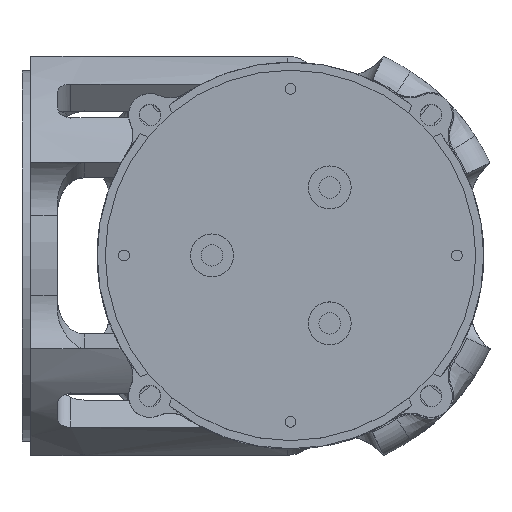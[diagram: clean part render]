
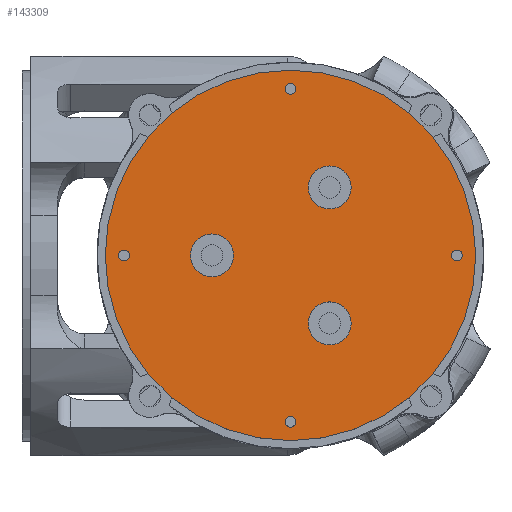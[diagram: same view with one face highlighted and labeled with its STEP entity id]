
A CAD part, top view. The second image highlights one B-rep face of the part: STEP entity #143309.
In plain terms, the highlighted planar face has unit normal (0, 0, 1).
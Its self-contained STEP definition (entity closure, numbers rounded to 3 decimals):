
#528=FACE_BOUND('',#20744,.T.);
#529=FACE_BOUND('',#20745,.T.);
#530=FACE_BOUND('',#20746,.T.);
#531=FACE_BOUND('',#20747,.T.);
#532=FACE_BOUND('',#20748,.T.);
#533=FACE_BOUND('',#20749,.T.);
#534=FACE_BOUND('',#20750,.T.);
#6853=PLANE('',#151240);
#13675=FACE_OUTER_BOUND('',#20743,.T.);
#20743=EDGE_LOOP('',(#135250));
#20744=EDGE_LOOP('',(#135251));
#20745=EDGE_LOOP('',(#135252));
#20746=EDGE_LOOP('',(#135253));
#20747=EDGE_LOOP('',(#135254));
#20748=EDGE_LOOP('',(#135255));
#20749=EDGE_LOOP('',(#135256));
#20750=EDGE_LOOP('',(#135257));
#60330=CIRCLE('',#151217,4.);
#60332=CIRCLE('',#151220,4.);
#60334=CIRCLE('',#151223,4.);
#60336=CIRCLE('',#151226,1.);
#60338=CIRCLE('',#151229,1.);
#60340=CIRCLE('',#151232,1.);
#60342=CIRCLE('',#151235,1.);
#60344=CIRCLE('',#151238,34.5);
#73917=VERTEX_POINT('',#229565);
#73919=VERTEX_POINT('',#229571);
#73921=VERTEX_POINT('',#229577);
#73923=VERTEX_POINT('',#229583);
#73925=VERTEX_POINT('',#229589);
#73927=VERTEX_POINT('',#229595);
#73929=VERTEX_POINT('',#229601);
#73931=VERTEX_POINT('',#229607);
#94389=EDGE_CURVE('',#73917,#73917,#60330,.T.);
#94392=EDGE_CURVE('',#73919,#73919,#60332,.T.);
#94395=EDGE_CURVE('',#73921,#73921,#60334,.T.);
#94398=EDGE_CURVE('',#73923,#73923,#60336,.T.);
#94401=EDGE_CURVE('',#73925,#73925,#60338,.T.);
#94404=EDGE_CURVE('',#73927,#73927,#60340,.T.);
#94407=EDGE_CURVE('',#73929,#73929,#60342,.T.);
#94410=EDGE_CURVE('',#73931,#73931,#60344,.T.);
#135250=ORIENTED_EDGE('',*,*,#94410,.T.);
#135251=ORIENTED_EDGE('',*,*,#94407,.T.);
#135252=ORIENTED_EDGE('',*,*,#94404,.T.);
#135253=ORIENTED_EDGE('',*,*,#94401,.T.);
#135254=ORIENTED_EDGE('',*,*,#94398,.T.);
#135255=ORIENTED_EDGE('',*,*,#94395,.T.);
#135256=ORIENTED_EDGE('',*,*,#94392,.T.);
#135257=ORIENTED_EDGE('',*,*,#94389,.T.);
#143309=ADVANCED_FACE('',(#13675,#528,#529,#530,#531,#532,#533,#534),#6853,
 .T.);
#151217=AXIS2_PLACEMENT_3D('',#229566,#186068,#186069);
#151220=AXIS2_PLACEMENT_3D('',#229572,#186075,#186076);
#151223=AXIS2_PLACEMENT_3D('',#229578,#186082,#186083);
#151226=AXIS2_PLACEMENT_3D('',#229584,#186089,#186090);
#151229=AXIS2_PLACEMENT_3D('',#229590,#186096,#186097);
#151232=AXIS2_PLACEMENT_3D('',#229596,#186103,#186104);
#151235=AXIS2_PLACEMENT_3D('',#229602,#186110,#186111);
#151238=AXIS2_PLACEMENT_3D('',#229608,#186117,#186118);
#151240=AXIS2_PLACEMENT_3D('',#229612,#186122,#186123);
#186068=DIRECTION('center_axis',(0.,0.,-1.));
#186069=DIRECTION('ref_axis',(1.,0.,0.));
#186075=DIRECTION('center_axis',(0.,0.,-1.));
#186076=DIRECTION('ref_axis',(1.,0.,0.));
#186082=DIRECTION('center_axis',(0.,0.,-1.));
#186083=DIRECTION('ref_axis',(1.,0.,0.));
#186089=DIRECTION('center_axis',(0.,0.,-1.));
#186090=DIRECTION('ref_axis',(1.,0.,0.));
#186096=DIRECTION('center_axis',(0.,0.,-1.));
#186097=DIRECTION('ref_axis',(1.,0.,0.));
#186103=DIRECTION('center_axis',(0.,0.,-1.));
#186104=DIRECTION('ref_axis',(1.,0.,0.));
#186110=DIRECTION('center_axis',(0.,0.,-1.));
#186111=DIRECTION('ref_axis',(1.,0.,0.));
#186117=DIRECTION('center_axis',(0.,0.,1.));
#186118=DIRECTION('ref_axis',(1.,0.,0.));
#186122=DIRECTION('center_axis',(0.,0.,1.));
#186123=DIRECTION('ref_axis',(1.,0.,0.));
#229565=CARTESIAN_POINT('',(18.883,37.5,52.1));
#229566=CARTESIAN_POINT('Origin',(22.883,37.5,52.1));
#229571=CARTESIAN_POINT('',(40.809,50.159,52.1));
#229572=CARTESIAN_POINT('Origin',(44.809,50.159,52.1));
#229577=CARTESIAN_POINT('',(40.809,24.841,52.1));
#229578=CARTESIAN_POINT('Origin',(44.809,24.841,52.1));
#229583=CARTESIAN_POINT('',(36.5,68.5,52.1));
#229584=CARTESIAN_POINT('Origin',(37.5,68.5,52.1));
#229589=CARTESIAN_POINT('',(67.5,37.5,52.1));
#229590=CARTESIAN_POINT('Origin',(68.5,37.5,52.1));
#229595=CARTESIAN_POINT('',(36.5,6.5,52.1));
#229596=CARTESIAN_POINT('Origin',(37.5,6.5,52.1));
#229601=CARTESIAN_POINT('',(5.5,37.5,52.1));
#229602=CARTESIAN_POINT('Origin',(6.5,37.5,52.1));
#229607=CARTESIAN_POINT('',(3.,37.5,52.1));
#229608=CARTESIAN_POINT('Origin',(37.5,37.5,52.1));
#229612=CARTESIAN_POINT('Origin',(37.5,37.5,52.1));
